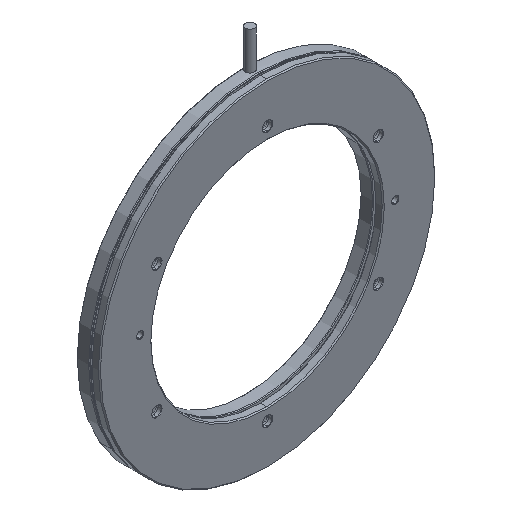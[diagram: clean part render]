
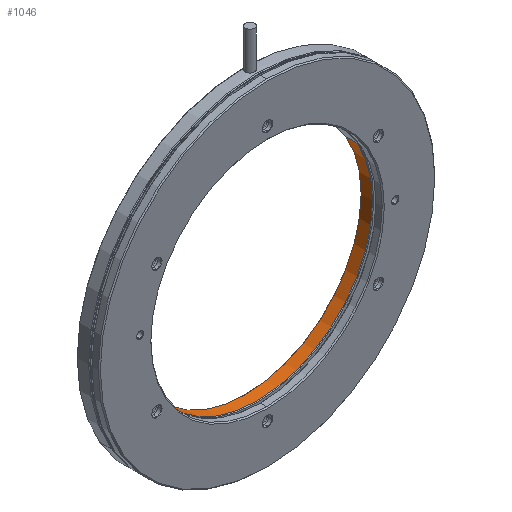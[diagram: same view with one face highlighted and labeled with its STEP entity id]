
A CAD part, isometric view. The second image highlights one B-rep face of the part: STEP entity #1046.
In plain terms, the highlighted cylindrical face has radius 55 mm (diameter 110 mm), a partial arc.
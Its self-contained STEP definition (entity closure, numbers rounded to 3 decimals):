
#114 = CARTESIAN_POINT ( 'NONE',  ( -47.631, 5.1, -27.5 ) ) ;
#363 = EDGE_CURVE ( 'NONE', #10117, #5043, #1494, .T. ) ;
#630 = CARTESIAN_POINT ( 'NONE',  ( 47.631, 4.8, 27.5 ) ) ;
#1046 = ADVANCED_FACE ( 'NONE', ( #8857 ), #2275, .F. ) ;
#1350 = DIRECTION ( 'NONE',  ( 0., -1., 0. ) ) ;
#1494 = CIRCLE ( 'NONE', #6971, 55. ) ;
#1626 = EDGE_LOOP ( 'NONE', ( #4445, #8598, #8987, #5385 ) ) ;
#2275 = CYLINDRICAL_SURFACE ( 'NONE', #8243, 55. ) ;
#2625 = CARTESIAN_POINT ( 'NONE',  ( 0., 10.5, 0. ) ) ;
#2912 = DIRECTION ( 'NONE',  ( -0.866, 0., -0.5 ) ) ;
#3146 = DIRECTION ( 'NONE',  ( 0.866, 0., 0.5 ) ) ;
#3546 = CARTESIAN_POINT ( 'NONE',  ( 47.631, 5.1, 27.5 ) ) ;
#3586 = CARTESIAN_POINT ( 'NONE',  ( 47.631, 10.5, 27.5 ) ) ;
#3740 = DIRECTION ( 'NONE',  ( -0.866, 0., -0.5 ) ) ;
#4371 = DIRECTION ( 'NONE',  ( 0., 1., 0. ) ) ;
#4445 = ORIENTED_EDGE ( 'NONE', *, *, #5027, .F. ) ;
#4798 = VERTEX_POINT ( 'NONE', #3546 ) ;
#5027 = EDGE_CURVE ( 'NONE', #8390, #5043, #8990, .T. ) ;
#5043 = VERTEX_POINT ( 'NONE', #8876 ) ;
#5385 = ORIENTED_EDGE ( 'NONE', *, *, #363, .T. ) ;
#5526 = DIRECTION ( 'NONE',  ( 0., 1., 0. ) ) ;
#5530 = DIRECTION ( 'NONE',  ( 0., 1., 0. ) ) ;
#5619 = CARTESIAN_POINT ( 'NONE',  ( 0., 4.8, 0. ) ) ;
#5839 = CIRCLE ( 'NONE', #10154, 55. ) ;
#6078 = EDGE_CURVE ( 'NONE', #8390, #4798, #5839, .T. ) ;
#6971 = AXIS2_PLACEMENT_3D ( 'NONE', #2625, #4371, #3740 ) ;
#7391 = VECTOR ( 'NONE', #5530, 1000. ) ;
#8234 = LINE ( 'NONE', #630, #7391 ) ;
#8243 = AXIS2_PLACEMENT_3D ( 'NONE', #5619, #9040, #3146 ) ;
#8390 = VERTEX_POINT ( 'NONE', #114 ) ;
#8598 = ORIENTED_EDGE ( 'NONE', *, *, #6078, .T. ) ;
#8764 = EDGE_CURVE ( 'NONE', #4798, #10117, #8234, .T. ) ;
#8857 = FACE_OUTER_BOUND ( 'NONE', #1626, .T. ) ;
#8876 = CARTESIAN_POINT ( 'NONE',  ( -47.631, 10.5, -27.5 ) ) ;
#8987 = ORIENTED_EDGE ( 'NONE', *, *, #8764, .T. ) ;
#8990 = LINE ( 'NONE', #10637, #9754 ) ;
#9040 = DIRECTION ( 'NONE',  ( 0., 1., 0. ) ) ;
#9754 = VECTOR ( 'NONE', #5526, 1000. ) ;
#10117 = VERTEX_POINT ( 'NONE', #3586 ) ;
#10154 = AXIS2_PLACEMENT_3D ( 'NONE', #10561, #1350, #2912 ) ;
#10561 = CARTESIAN_POINT ( 'NONE',  ( 0., 5.1, 0. ) ) ;
#10637 = CARTESIAN_POINT ( 'NONE',  ( -47.631, 4.8, -27.5 ) ) ;
